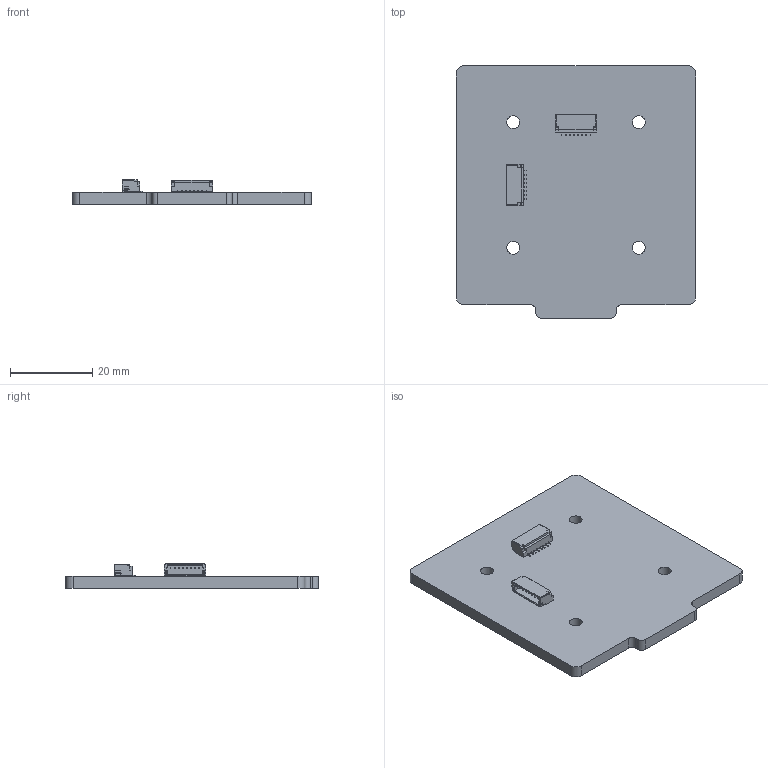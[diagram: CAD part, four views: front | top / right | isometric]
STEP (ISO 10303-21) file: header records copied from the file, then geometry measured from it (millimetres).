
FILE_DESCRIPTION(('Open CASCADE Model'),'2;1');
FILE_NAME('Open CASCADE Shape Model','2025-11-11T16:34:04',('Author'),( 'Open CASCADE'),'Open CASCADE STEP processor 7.5','Open CASCADE 7.5' ,'Unknown');
FILE_SCHEMA(('AUTOMOTIVE_DESIGN { 1 0 10303 214 1 1 1 1 }'));
Length unit declared in the file: millimetre
Products named in the file (7): PCB; Board; Open CASCADE STEP translator 7.5 2.1.1; J22; SM08B-SRSS-TB_RGB8421504; J21; SM08B-SRSS-TB(LF)(SN)--3DModel-STEP-56544 (1)
Assembly tree (6 placements, depth 3):
  PCB
    Board
      Open CASCADE STEP translator 7.5 2.1.1
    J22
      SM08B-SRSS-TB_RGB8421504
    J21
      SM08B-SRSS-TB(LF)(SN)--3DModel-STEP-56544 (1)
Bounding box: 58 x 61.25 x 5.9 mm (x, y, z)
Volume: 10098.7 mm3; surface area: 8162.8 mm2
Topology: 39 solids, 39 shells, 568 faces, 1452 edges, 964 vertices
Faces by surface type: plane 500, cylinder 68
Full cylindrical faces by diameter (mm): 3.1 x4
Entity records: 18389 total; most frequent: CARTESIAN_POINT 2991, ORIENTED_EDGE 2904, DIRECTION 2738, EDGE_CURVE 1452, LINE 1316, VECTOR 1316, VERTEX_POINT 964, AXIS2_PLACEMENT_3D 711
